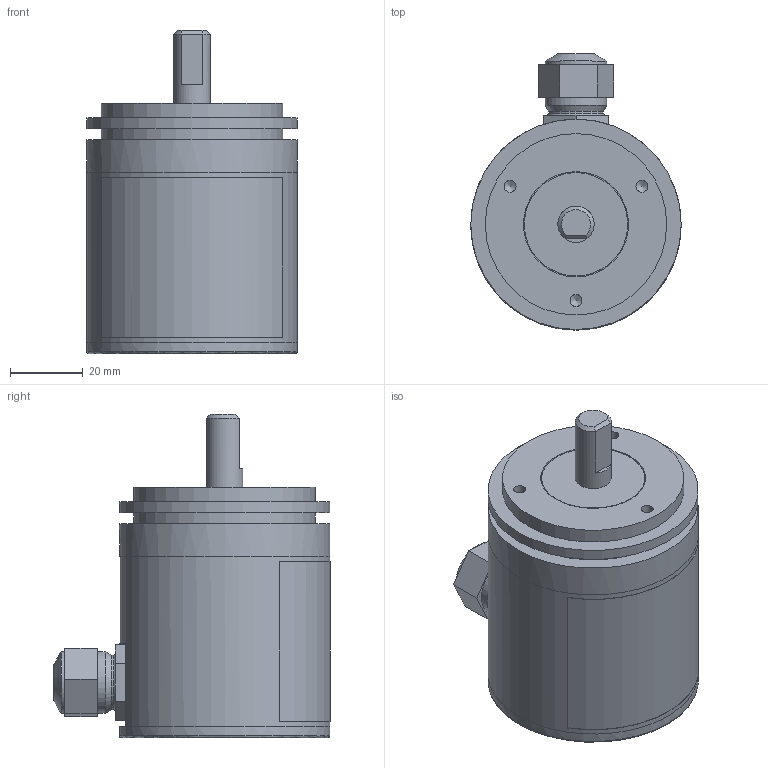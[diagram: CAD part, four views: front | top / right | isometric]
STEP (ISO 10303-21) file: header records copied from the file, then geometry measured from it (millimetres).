
FILE_DESCRIPTION (( 'STEP AP214' ), '1' );
FILE_NAME ('WT720 Gerät.STEP', '2013-04-30T08:05:26', ( 'inst' ), ( '' ), 'SwSTEP 2.0', 'SolidWorks 2013', '' );
FILE_SCHEMA (( 'AUTOMOTIVE_DESIGN' ));
Length unit declared in the file: millimetre
Products named in the file (1): WT720 Gerät
Bounding box: 58 x 76.2 x 89.1 mm (x, y, z)
Volume: 181988.6 mm3; surface area: 27649.4 mm2
Topology: 2 solids, 2 shells, 94 faces, 198 edges, 128 vertices
Faces by surface type: plane 62, cylinder 24, cone 6, torus 2
Full cylindrical faces by diameter (mm): 3.3 x3, 5.5 x3, 5.8 x3, 9 x1, 10 x1, 15 x1, 17 x2, 28.5 x1, 29 x1, 50 x2, 58 x2, 58.001 x2
Entity records: 2763 total; most frequent: CARTESIAN_POINT 523, DIRECTION 397, ORIENTED_EDGE 324, EDGE_CURVE 162, AXIS2_PLACEMENT_3D 145, EDGE_LOOP 143, VERTEX_POINT 121, FACE_OUTER_BOUND 118
